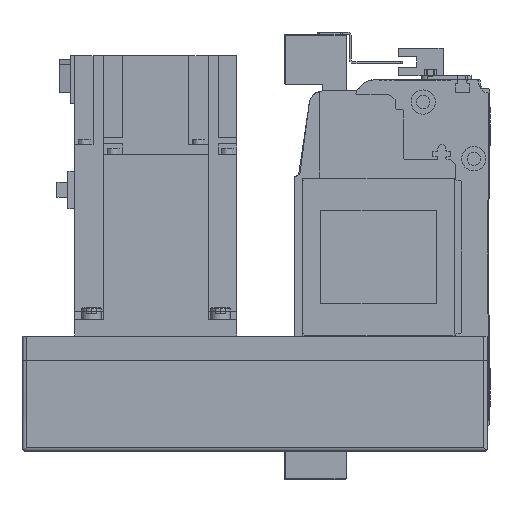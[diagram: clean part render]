
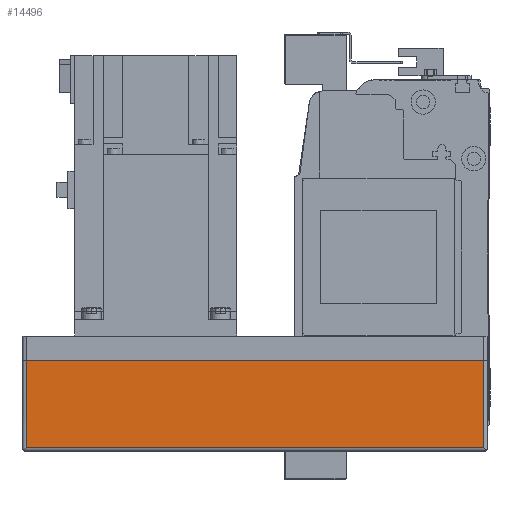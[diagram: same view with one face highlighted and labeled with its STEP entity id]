
A CAD part, left-side view. The second image highlights one B-rep face of the part: STEP entity #14496.
In plain terms, the highlighted planar face has unit normal (-1, 0, 0) as drawn and (0, -1, 0) by its records, which use the part's own axes.
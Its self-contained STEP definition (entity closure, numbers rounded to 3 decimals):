
#2491=ORIENTED_EDGE('',*,*,#5924,.F.);
#2492=ORIENTED_EDGE('',*,*,#5927,.T.);
#2493=ORIENTED_EDGE('',*,*,#5928,.T.);
#2494=ORIENTED_EDGE('',*,*,#5929,.F.);
#5924=EDGE_CURVE('',#7771,#7772,#9291,.T.);
#5927=EDGE_CURVE('',#7771,#7774,#9293,.T.);
#5928=EDGE_CURVE('',#7774,#7775,#9294,.T.);
#5929=EDGE_CURVE('',#7772,#7775,#9295,.T.);
#7771=VERTEX_POINT('',#22795);
#7772=VERTEX_POINT('',#22797);
#7774=VERTEX_POINT('',#22803);
#7775=VERTEX_POINT('',#22805);
#9291=LINE('',#22796,#10604);
#9293=LINE('',#22802,#10606);
#9294=LINE('',#22804,#10607);
#9295=LINE('',#22806,#10608);
#10604=VECTOR('',#18166,1000.);
#10606=VECTOR('',#18172,1000.);
#10607=VECTOR('',#18173,1000.);
#10608=VECTOR('',#18174,1000.);
#11728=EDGE_LOOP('',(#2491,#2492,#2493,#2494));
#12887=FACE_BOUND('',#11728,.T.);
#13896=PLANE('',#15570);
#14496=ADVANCED_FACE('',(#12887),#13896,.T.);
#15570=AXIS2_PLACEMENT_3D('',#22801,#18170,#18171);
#18166=DIRECTION('',(0.,0.,1.));
#18170=DIRECTION('',(0.,-1.,0.));
#18171=DIRECTION('',(0.,0.,-1.));
#18172=DIRECTION('',(1.,0.,0.));
#18173=DIRECTION('',(0.,0.,1.));
#18174=DIRECTION('',(1.,0.,0.));
#22795=CARTESIAN_POINT('',(-228.,-54.,-55.));
#22796=CARTESIAN_POINT('',(-228.,-54.,-57.));
#22797=CARTESIAN_POINT('',(-228.,-54.,-12.));
#22801=CARTESIAN_POINT('',(-228.,-54.,-57.));
#22802=CARTESIAN_POINT('',(-230.,-54.,-55.));
#22803=CARTESIAN_POINT('',(-2.,-54.,-55.));
#22804=CARTESIAN_POINT('',(-2.,-54.,-57.));
#22805=CARTESIAN_POINT('',(-2.,-54.,-12.));
#22806=CARTESIAN_POINT('',(-228.,-54.,-12.));
